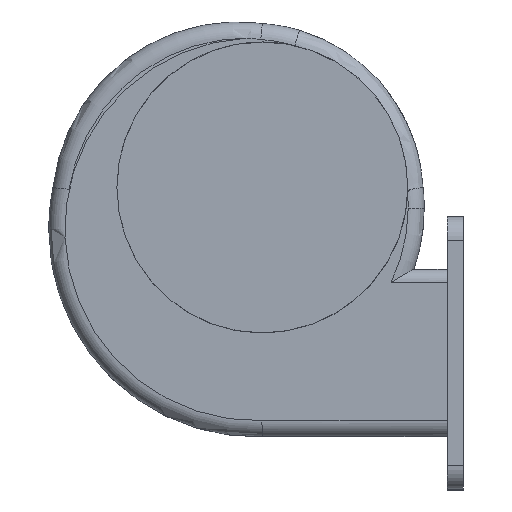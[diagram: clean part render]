
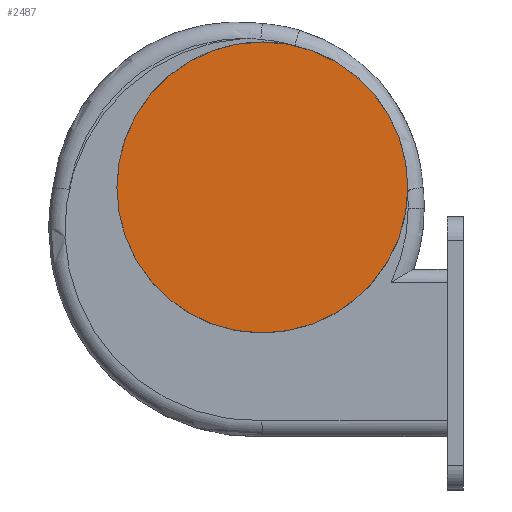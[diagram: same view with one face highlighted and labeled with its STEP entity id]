
A CAD part, top view. The second image highlights one B-rep face of the part: STEP entity #2487.
In plain terms, the highlighted planar face has unit normal (0, 0, 1).
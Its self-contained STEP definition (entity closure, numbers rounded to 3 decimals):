
#163 = DIRECTION ( 'NONE',  ( 1., 0., 0. ) ) ;
#609 = FACE_OUTER_BOUND ( 'NONE', #709, .T. ) ;
#709 = EDGE_LOOP ( 'NONE', ( #1453, #1488 ) ) ;
#887 = DIRECTION ( 'NONE',  ( 0., 0., 1. ) ) ;
#1120 = DIRECTION ( 'NONE',  ( 0., 0., 1. ) ) ;
#1166 = AXIS2_PLACEMENT_3D ( 'NONE', #2763, #1525, #163 ) ;
#1321 = CARTESIAN_POINT ( 'NONE',  ( 90.5, 0., 60.5 ) ) ;
#1453 = ORIENTED_EDGE ( 'NONE', *, *, #2482, .T. ) ;
#1488 = ORIENTED_EDGE ( 'NONE', *, *, #2538, .T. ) ;
#1525 = DIRECTION ( 'NONE',  ( 0., 0., 1. ) ) ;
#1625 = CIRCLE ( 'NONE', #2812, 90.5 ) ;
#1689 = VERTEX_POINT ( 'NONE', #1968 ) ;
#1724 = PLANE ( 'NONE',  #2839 ) ;
#1968 = CARTESIAN_POINT ( 'NONE',  ( -90.5, 0., 60.5 ) ) ;
#2019 = VERTEX_POINT ( 'NONE', #1321 ) ;
#2233 = CIRCLE ( 'NONE', #1166, 90.5 ) ;
#2341 = DIRECTION ( 'NONE',  ( 1., 0., 0. ) ) ;
#2363 = CARTESIAN_POINT ( 'NONE',  ( 0., 0., 60.5 ) ) ;
#2482 = EDGE_CURVE ( 'NONE', #1689, #2019, #2233, .T. ) ;
#2487 = ADVANCED_FACE ( 'NONE', ( #609 ), #1724, .T. ) ;
#2538 = EDGE_CURVE ( 'NONE', #2019, #1689, #1625, .T. ) ;
#2552 = CARTESIAN_POINT ( 'NONE',  ( 0., 0., 60.5 ) ) ;
#2581 = DIRECTION ( 'NONE',  ( 1., 0., 0. ) ) ;
#2763 = CARTESIAN_POINT ( 'NONE',  ( 0., 0., 60.5 ) ) ;
#2812 = AXIS2_PLACEMENT_3D ( 'NONE', #2363, #1120, #2581 ) ;
#2839 = AXIS2_PLACEMENT_3D ( 'NONE', #2552, #887, #2341 ) ;
